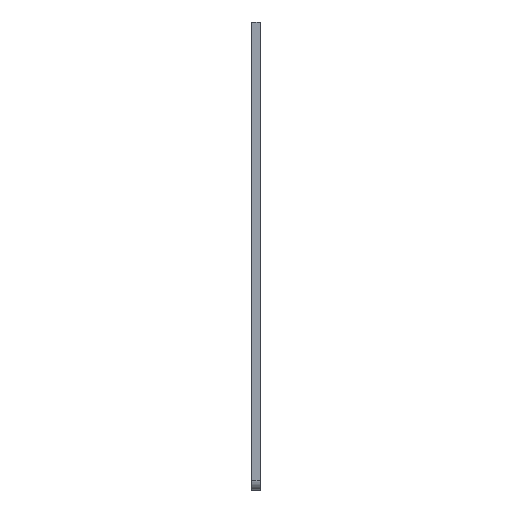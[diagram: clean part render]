
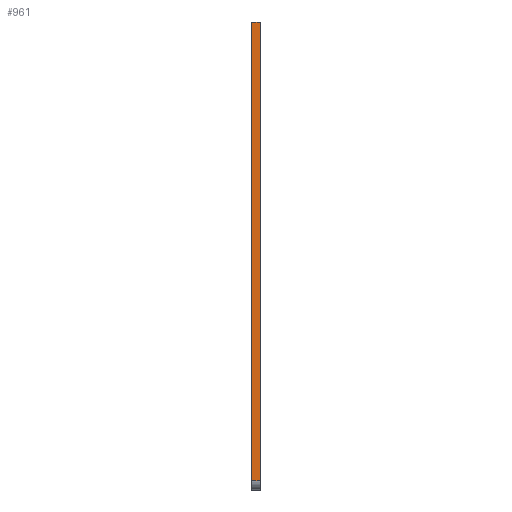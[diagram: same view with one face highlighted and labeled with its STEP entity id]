
A CAD part, left-side view. The second image highlights one B-rep face of the part: STEP entity #961.
In plain terms, the highlighted planar face has unit normal (-1, 0, 0).
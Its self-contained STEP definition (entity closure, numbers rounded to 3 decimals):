
#44 = CYLINDRICAL_SURFACE('',#45,1.7);
#45 = AXIS2_PLACEMENT_3D('',#46,#47,#48);
#46 = CARTESIAN_POINT('',(-126.5,-88.5,3.5));
#47 = DIRECTION('',(-0.,1.,-0.));
#48 = DIRECTION('',(-1.,0.,0.));
#72 = PLANE('',#73);
#73 = AXIS2_PLACEMENT_3D('',#74,#75,#76);
#74 = CARTESIAN_POINT('',(0.,-90.,45.097));
#75 = DIRECTION('',(-0.,-1.,-0.));
#76 = DIRECTION('',(0.,0.,-1.));
#126 = PLANE('',#127);
#127 = AXIS2_PLACEMENT_3D('',#128,#129,#130);
#128 = CARTESIAN_POINT('',(0.,-88.5,45.097));
#129 = DIRECTION('',(-0.,-1.,-0.));
#130 = DIRECTION('',(0.,0.,-1.));
#141 = EDGE_CURVE('',#142,#144,#146,.T.);
#142 = VERTEX_POINT('',#143);
#143 = CARTESIAN_POINT('',(-128.2,-88.5,3.5));
#144 = VERTEX_POINT('',#145);
#145 = CARTESIAN_POINT('',(-128.2,-90.,3.5));
#146 = SURFACE_CURVE('',#147,(#151,#158),.PCURVE_S1.);
#147 = LINE('',#148,#149);
#148 = CARTESIAN_POINT('',(-128.2,-88.5,3.5));
#149 = VECTOR('',#150,1.);
#150 = DIRECTION('',(0.,-1.,0.));
#151 = PCURVE('',#44,#152);
#152 = DEFINITIONAL_REPRESENTATION('',(#153),#157);
#153 = LINE('',#154,#155);
#154 = CARTESIAN_POINT('',(-0.,0.));
#155 = VECTOR('',#156,1.);
#156 = DIRECTION('',(-0.,-1.));
#157 = ( GEOMETRIC_REPRESENTATION_CONTEXT(2) 
PARAMETRIC_REPRESENTATION_CONTEXT() REPRESENTATION_CONTEXT('2D SPACE',''
  ) );
#158 = PCURVE('',#159,#164);
#159 = PLANE('',#160);
#160 = AXIS2_PLACEMENT_3D('',#161,#162,#163);
#161 = CARTESIAN_POINT('',(-128.2,-88.5,88.2));
#162 = DIRECTION('',(1.,0.,0.));
#163 = DIRECTION('',(0.,0.,-1.));
#164 = DEFINITIONAL_REPRESENTATION('',(#165),#169);
#165 = LINE('',#166,#167);
#166 = CARTESIAN_POINT('',(84.7,0.));
#167 = VECTOR('',#168,1.);
#168 = DIRECTION('',(0.,-1.));
#169 = ( GEOMETRIC_REPRESENTATION_CONTEXT(2) 
PARAMETRIC_REPRESENTATION_CONTEXT() REPRESENTATION_CONTEXT('2D SPACE',''
  ) );
#323 = VERTEX_POINT('',#324);
#324 = CARTESIAN_POINT('',(-128.2,-88.5,88.2));
#338 = PLANE('',#339);
#339 = AXIS2_PLACEMENT_3D('',#340,#341,#342);
#340 = CARTESIAN_POINT('',(128.2,-88.5,88.2));
#341 = DIRECTION('',(-0.,-0.,-1.));
#342 = DIRECTION('',(-1.,0.,0.));
#350 = EDGE_CURVE('',#323,#142,#351,.T.);
#351 = SURFACE_CURVE('',#352,(#356,#363),.PCURVE_S1.);
#352 = LINE('',#353,#354);
#353 = CARTESIAN_POINT('',(-128.2,-88.5,88.2));
#354 = VECTOR('',#355,1.);
#355 = DIRECTION('',(0.,0.,-1.));
#356 = PCURVE('',#126,#357);
#357 = DEFINITIONAL_REPRESENTATION('',(#358),#362);
#358 = LINE('',#359,#360);
#359 = CARTESIAN_POINT('',(-43.103,-128.2));
#360 = VECTOR('',#361,1.);
#361 = DIRECTION('',(1.,0.));
#362 = ( GEOMETRIC_REPRESENTATION_CONTEXT(2) 
PARAMETRIC_REPRESENTATION_CONTEXT() REPRESENTATION_CONTEXT('2D SPACE',''
  ) );
#363 = PCURVE('',#159,#364);
#364 = DEFINITIONAL_REPRESENTATION('',(#365),#369);
#365 = LINE('',#366,#367);
#366 = CARTESIAN_POINT('',(0.,0.));
#367 = VECTOR('',#368,1.);
#368 = DIRECTION('',(1.,0.));
#369 = ( GEOMETRIC_REPRESENTATION_CONTEXT(2) 
PARAMETRIC_REPRESENTATION_CONTEXT() REPRESENTATION_CONTEXT('2D SPACE',''
  ) );
#682 = VERTEX_POINT('',#683);
#683 = CARTESIAN_POINT('',(-128.2,-90.,88.2));
#704 = EDGE_CURVE('',#682,#144,#705,.T.);
#705 = SURFACE_CURVE('',#706,(#710,#717),.PCURVE_S1.);
#706 = LINE('',#707,#708);
#707 = CARTESIAN_POINT('',(-128.2,-90.,88.2));
#708 = VECTOR('',#709,1.);
#709 = DIRECTION('',(0.,0.,-1.));
#710 = PCURVE('',#72,#711);
#711 = DEFINITIONAL_REPRESENTATION('',(#712),#716);
#712 = LINE('',#713,#714);
#713 = CARTESIAN_POINT('',(-43.103,-128.2));
#714 = VECTOR('',#715,1.);
#715 = DIRECTION('',(1.,0.));
#716 = ( GEOMETRIC_REPRESENTATION_CONTEXT(2) 
PARAMETRIC_REPRESENTATION_CONTEXT() REPRESENTATION_CONTEXT('2D SPACE',''
  ) );
#717 = PCURVE('',#159,#718);
#718 = DEFINITIONAL_REPRESENTATION('',(#719),#723);
#719 = LINE('',#720,#721);
#720 = CARTESIAN_POINT('',(0.,-1.5));
#721 = VECTOR('',#722,1.);
#722 = DIRECTION('',(1.,0.));
#723 = ( GEOMETRIC_REPRESENTATION_CONTEXT(2) 
PARAMETRIC_REPRESENTATION_CONTEXT() REPRESENTATION_CONTEXT('2D SPACE',''
  ) );
#961 = ADVANCED_FACE('',(#962),#159,.F.);
#962 = FACE_BOUND('',#963,.F.);
#963 = EDGE_LOOP('',(#964,#985,#986,#987));
#964 = ORIENTED_EDGE('',*,*,#965,.T.);
#965 = EDGE_CURVE('',#323,#682,#966,.T.);
#966 = SURFACE_CURVE('',#967,(#971,#978),.PCURVE_S1.);
#967 = LINE('',#968,#969);
#968 = CARTESIAN_POINT('',(-128.2,-88.5,88.2));
#969 = VECTOR('',#970,1.);
#970 = DIRECTION('',(0.,-1.,0.));
#971 = PCURVE('',#159,#972);
#972 = DEFINITIONAL_REPRESENTATION('',(#973),#977);
#973 = LINE('',#974,#975);
#974 = CARTESIAN_POINT('',(0.,0.));
#975 = VECTOR('',#976,1.);
#976 = DIRECTION('',(0.,-1.));
#977 = ( GEOMETRIC_REPRESENTATION_CONTEXT(2) 
PARAMETRIC_REPRESENTATION_CONTEXT() REPRESENTATION_CONTEXT('2D SPACE',''
  ) );
#978 = PCURVE('',#338,#979);
#979 = DEFINITIONAL_REPRESENTATION('',(#980),#984);
#980 = LINE('',#981,#982);
#981 = CARTESIAN_POINT('',(256.4,0.));
#982 = VECTOR('',#983,1.);
#983 = DIRECTION('',(0.,-1.));
#984 = ( GEOMETRIC_REPRESENTATION_CONTEXT(2) 
PARAMETRIC_REPRESENTATION_CONTEXT() REPRESENTATION_CONTEXT('2D SPACE',''
  ) );
#985 = ORIENTED_EDGE('',*,*,#704,.T.);
#986 = ORIENTED_EDGE('',*,*,#141,.F.);
#987 = ORIENTED_EDGE('',*,*,#350,.F.);
